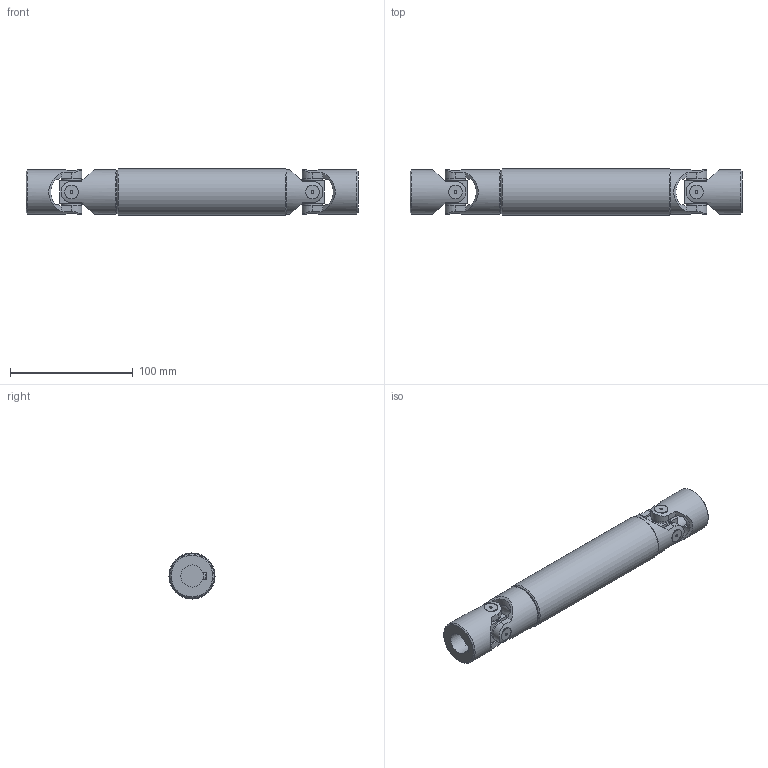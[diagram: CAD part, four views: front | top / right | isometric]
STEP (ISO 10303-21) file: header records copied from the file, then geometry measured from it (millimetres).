
FILE_DESCRIPTION(/* description */ (''),/* implementation_level */ '2;1');
FILE_NAME(/* name */ '\\SRV2016\Societa\Stefano\Disegni 3D\00Catalogo 3D\03Trasmissioni standard GA\2GA18\2GA18_SG0A1818.stp',/* time_stamp */ '2022-02-16T16:58:48+01:00',/* author */ ('acquisti'),/* organization */ (''),/* preprocessor_version */ 'ST-DEVELOPER v15.6',/* originating_system */ 'Autodesk Inventor 2015',/* authorisation */ '');
FILE_SCHEMA (('AUTOMOTIVE_DESIGN { 1 0 10303 214 3 1 1 }'));
Length unit declared in the file: millimetre
Products named in the file (5): 2G MOC; 2G SFE; 2GA18 LAI; 2GA18 LCI; 2GA18_SG0A1818
Assembly tree (6 placements, depth 2):
  2GA18_SG0A1818
    2G MOC  x2
    2G SFE  x2
    2GA18 LAI
    2GA18 LCI
Bounding box: 270 x 37.5 x 37.5 mm (x, y, z)
Volume: 203295.1 mm3; surface area: 69262.7 mm2
Topology: 6 solids, 6 shells, 228 faces, 561 edges, 369 vertices
Faces by surface type: plane 106, cylinder 93, cone 25, torus 4
Full cylindrical faces by diameter (mm): 2 x8, 16 x8, 18 x1, 20 x2, 31 x1, 36 x4, 37.5 x1
Entity records: 5813 total; most frequent: CARTESIAN_POINT 1703, DIRECTION 823, ORIENTED_EDGE 820, EDGE_CURVE 410, AXIS2_PLACEMENT_3D 335, VERTEX_POINT 286, EDGE_LOOP 224, FACE_OUTER_BOUND 176
